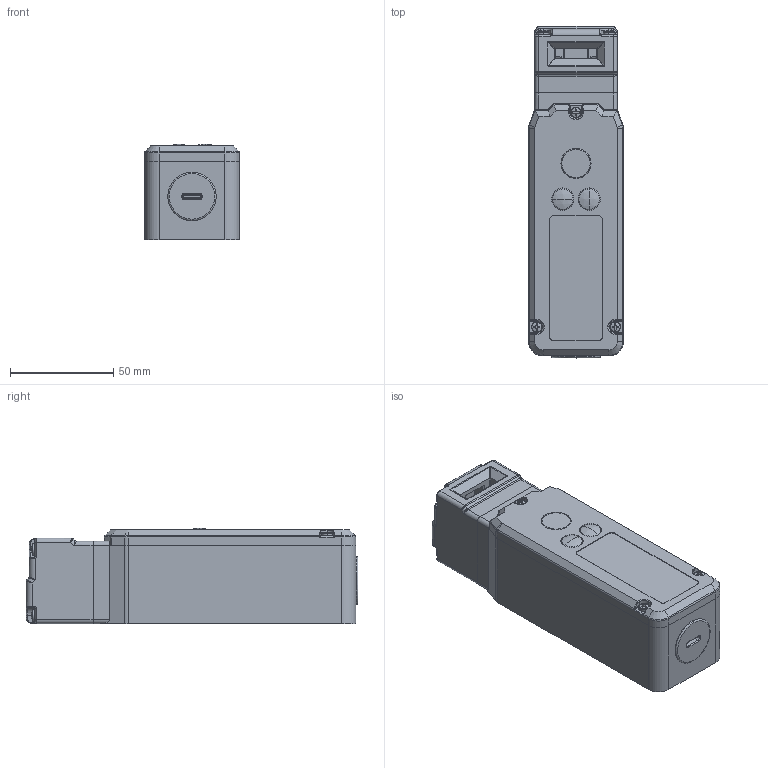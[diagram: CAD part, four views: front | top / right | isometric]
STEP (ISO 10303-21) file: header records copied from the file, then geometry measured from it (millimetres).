
FILE_DESCRIPTION (( 'STEP AP203' ), '1' );
FILE_NAME ('201-KLP-P2L (step format).STEP', '2013-04-03T14:38:21', ( '' ), ( '' ), 'SwSTEP 2.0', 'SolidWorks 2010', '' );
FILE_SCHEMA (( 'CONFIG_CONTROL_DESIGN' ));
Length unit declared in the file: millimetre
Products named in the file (1): 201-KLP-P2L (step format)
Bounding box: 46 x 161 x 46.3 mm (x, y, z)
Volume: 104568 mm3; surface area: 84746.4 mm2
Topology: 17 solids, 17 shells, 3035 faces, 7682 edges, 4612 vertices
Faces by surface type: cylinder 1166, plane 1007, torus 364, bspline 288, sphere 124, cone 86
Entity records: 106415 total; most frequent: CARTESIAN_POINT 36530, ORIENTED_EDGE 15044, DIRECTION 14336, EDGE_CURVE 7522, AXIS2_PLACEMENT_3D 5324, VERTEX_POINT 4606, VECTOR 3688, LINE 3688
